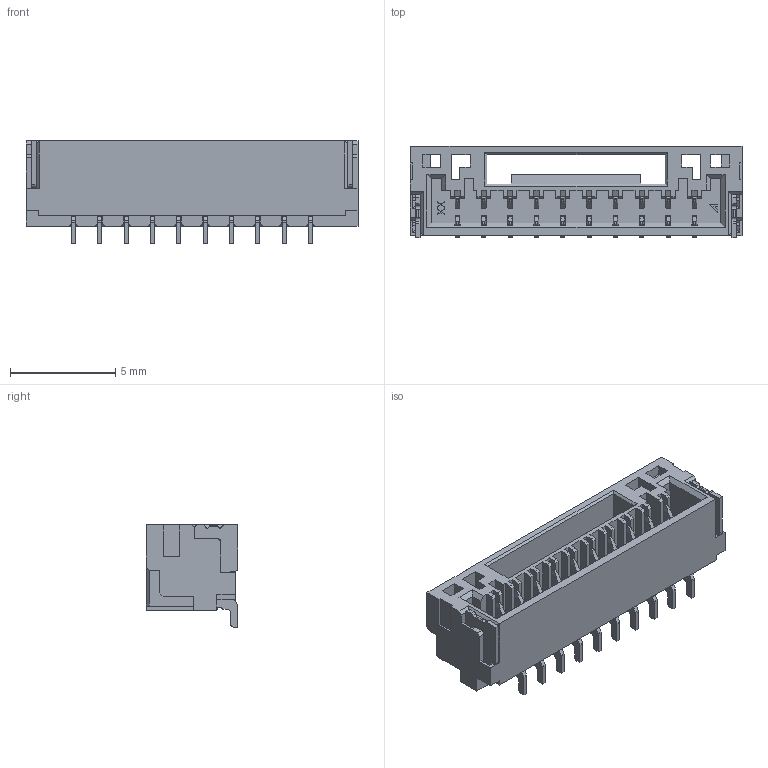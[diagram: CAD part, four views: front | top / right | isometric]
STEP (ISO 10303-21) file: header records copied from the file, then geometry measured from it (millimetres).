
FILE_DESCRIPTION((''),'2;1');
FILE_NAME('S-51451-010XX-XXX','2019-12-24T',('k49820'),(''),'PRO/ENGINEER BY PARAMETRIC TECHNOLOGY CORPORATION, 2009360','PRO/ENGINEER BY PARAMETRIC TECHNOLOGY CORPORATION, 2009360','');
FILE_SCHEMA(('CONFIG_CONTROL_DESIGN'));
Length unit declared in the file: millimetre
Products named in the file (1): S-51451-010XX-XXX
Bounding box: 15.75 x 4.35 x 4.85 mm (x, y, z)
Volume: 151.9 mm3; surface area: 704.8 mm2
Topology: 1 solids, 1 shells, 1227 faces, 3844 edges, 2534 vertices
Faces by surface type: plane 937, cylinder 290
Entity records: 42864 total; most frequent: CARTESIAN_POINT 8301, ORIENTED_EDGE 7688, DIRECTION 6714, EDGE_CURVE 3844, VECTOR 3108, LINE 3108, VERTEX_POINT 2534, AXIS2_PLACEMENT_3D 1803
